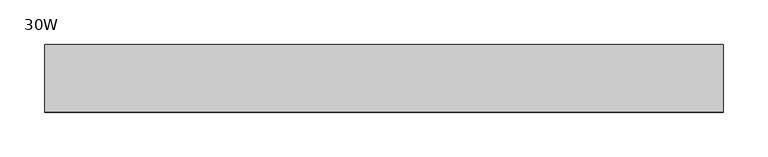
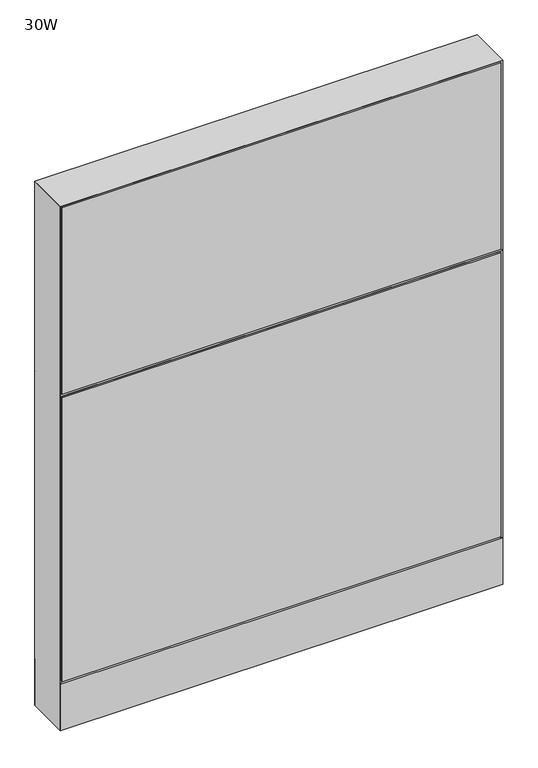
"""IFC4 building model written with IfcOpenShell, lengths in millimetres: furniture geometry, Steelcase - Montage - Frame - 38H - Enhanced Monolithic - Base Cavity : 30W."""

from ifc_helpers import new_model, si_unit, point, frame, frame_2d, origin, origin_with_axes, place, context, project, spatial, polyline, circle_curve, trimmed, segment, composite_curve, outline, extrude, faceted_brep, source, transform, mapped, element, save


def furniture_30w_2dfa0810(model_context):
    return source(origin(), model_context, "Body", "SolidModel", [
        faceted_brep([(-5.4e-06, 38.102627, 612.7750027), (6.3499917, 31.7526299, 619.1249997), (755.6500047, 31.7526299, 619.1249997), (762.0, 38.1026253, 612.7750044), (755.6500047, 31.7526299, 606.4250003), (6.3499917, 31.7526299, 606.4250003)], [[[0, 1, 2, 3]], [[3, 4, 5, 0]], [[1, 5, 4, 2]], [[0, 5, 1]], [[2, 4, 3]]]),
        extrude(outline(polyline([(3.175, 31.7500194), (3.175, 38.1000194), (758.825, 38.1000194), (758.825, 31.7500194), (3.175, 31.7500194)])), frame((0.0, 0.0, 92.075), z_axis=(0.0, 0.0, 1.0), x_axis=(1.0, 0.0, 0.0)), (0.0, 0.0, 1.0), 517.525),
        extrude(outline(polyline([(3.175, 31.7500194), (3.175, 38.1000194), (758.825, 38.1000194), (758.825, 31.7500194), (3.175, 31.7500194)])), frame((0.0, 0.0, 615.95), z_axis=(0.0, 0.0, 1.0), x_axis=(1.0, 0.0, 0.0)), (0.0, 0.0, 1.0), 339.725),
        faceted_brep([(0.0, -38.1026297, 612.775), (762.0, -38.1026297, 612.775), (755.6500047, -31.7526299, 619.1249997), (6.3499917, -31.7526299, 619.1249997), (6.3499917, -31.7526299, 606.4250003), (755.6500047, -31.7526299, 606.4250003)], [[[0, 1, 2, 3]], [[1, 0, 4, 5]], [[3, 2, 5, 4]], [[0, 3, 4]], [[2, 1, 5]]]),
        extrude(outline(polyline([(3.175, -31.7500194), (758.825, -31.7500194), (758.825, -38.1000194), (3.175, -38.1000194), (3.175, -31.7500194)])), frame((0.0, 0.0, 92.075), z_axis=(0.0, 0.0, 1.0), x_axis=(1.0, 0.0, 0.0)), (0.0, 0.0, 1.0), 517.525),
        extrude(outline(polyline([(3.175, -31.7500194), (758.825, -31.7500194), (758.825, -38.1000194), (3.175, -38.1000194), (3.175, -31.7500194)])), frame((0.0, 0.0, 615.95), z_axis=(0.0, 0.0, 1.0), x_axis=(1.0, 0.0, 0.0)), (0.0, 0.0, 1.0), 339.725),
        extrude(outline(polyline([(6.350003, -31.7499985), (755.649997, -31.7499985), (762.0, -38.1000015), (0.0, -38.1000015), (6.350003, -31.7499985)])), frame((0.0, 0.0, 4.064), z_axis=(0.0, 0.0, 1.0), x_axis=(1.0, 0.0, 0.0)), (0.0, 0.0, 1.0), 84.835997),
        extrude(outline(polyline([(6.3500002, 31.7500017), (0.0, 38.1000015), (762.0, 38.1000015), (755.6500002, 31.7500017), (6.3500002, 31.7500017)])), frame((0.0, 0.0, 4.064), z_axis=(0.0, 0.0, 1.0), x_axis=(1.0, 0.0, 0.0)), (0.0, 0.0, 1.0), 84.835997),
        faceted_brep([(755.6499516, -31.749953, 952.4999516), (6.3500484, -31.749953, 952.4999516), (6.3500484, 31.749953, 952.4999516), (755.6499516, 31.749953, 952.4999516), (0.0, -38.1000015, 958.85), (762.0, -38.1000015, 958.85), (762.0, 38.1000015, 958.85), (0.0, 38.1000015, 958.85)], [[[0, 1, 2, 3]], [[4, 5, 6, 7]], [[5, 4, 1, 0]], [[7, 6, 3, 2]], [[1, 4, 7, 2]], [[5, 0, 3, 6]]]),
        extrude(outline(composite_curve([segment(trimmed(circle_curve(frame_2d((44.45, 0.0)), 15.24), [point((29.21, 0.0))], [point((59.69, 0.0))], False, "CARTESIAN"), True, "CONTINUOUS"), segment(trimmed(circle_curve(frame_2d((44.45, 0.0)), 15.24), [point((59.69, 0.0))], [point((29.21, 0.0))], False, "CARTESIAN"), True, "CONTINUOUS")], self_intersect=False)), origin_with_axes(), (0.0, 0.0, 1.0), 4.064),
        extrude(outline(composite_curve([segment(trimmed(circle_curve(frame_2d((717.55, 0.0)), 15.24), [point((702.31, 0.0))], [point((732.79, 0.0))], False, "CARTESIAN"), True, "CONTINUOUS"), segment(trimmed(circle_curve(frame_2d((717.55, 0.0)), 15.24), [point((732.79, 0.0))], [point((702.31, 0.0))], False, "CARTESIAN"), True, "CONTINUOUS")], self_intersect=False)), origin_with_axes(), (0.0, 0.0, 1.0), 4.064),
        faceted_brep([(762.0, -38.1000106, 4.064), (762.0, 38.1000015, 4.064), (762.0, 38.1000015, 958.85), (762.0, -38.1000106, 958.8499637), (0.0, 38.1000015, 4.064), (0.0, -38.1000015, 4.064), (0.0, -38.1000015, 958.85), (0.0, 38.1000015, 958.85), (755.6499879, 31.7500017, 619.125), (6.35, 31.7500017, 619.125), (6.35, -31.7499985, 619.125), (755.6499879, -31.7499985, 619.125), (6.35, 31.7500017, 606.425), (755.6499879, 31.7500017, 606.425), (755.6499879, -31.7499985, 606.425), (6.35, -31.7499985, 606.425), (6.35, 31.7500015, 4.064), (6.35, -31.7500015, 4.064), (755.6499879, 31.7499894, 4.064), (755.6499879, -31.7499985, 4.064), (6.35, 31.7500015, 952.5), (6.35, -31.7500015, 952.5), (755.6499879, -31.7499985, 952.4999516), (755.6499879, 31.7499896, 952.4999516)], [[[0, 1, 2, 3]], [[4, 5, 6, 7]], [[8, 9, 10, 11]], [[12, 13, 14, 15]], [[16, 17, 5, 4]], [[18, 1, 0, 19]], [[17, 16, 12, 15]], [[10, 9, 20, 21]], [[18, 19, 14, 13]], [[8, 11, 22, 23]], [[16, 4, 7, 20, 9, 12]], [[5, 17, 15, 10, 21, 6]], [[19, 0, 3, 22, 11, 14]], [[1, 18, 13, 8, 23, 2]], [[7, 6, 21, 20]], [[3, 2, 23, 22]], [[13, 12, 9, 8]], [[11, 10, 15, 14]]]),
    ])


if __name__ == "__main__":
    model = new_model("IFC4")
    model_context = context("Model", 3, world=origin())
    ifc_project = project(units=[si_unit("LENGTHUNIT", "METRE", prefix="MILLI")], contexts=[model_context])
    site = spatial("IfcSite", under=ifc_project)
    building = spatial("IfcBuilding", under=site)
    placement = place(None, origin())
    furniture_30w_shape = furniture_30w_2dfa0810(model_context)
    element("IfcFurniture", 1, ObjectType="Steelcase - Montage - Frame - 38H - Enhanced Monolithic - Base Cavity : 30W", at=placement, inside=building, context=model_context, shape_type="MappedRepresentation", body=[
        mapped(furniture_30w_shape, transform((0.0, 0.0, 0.0), x_axis=(1.0, 0.0, 0.0), y_axis=(0.0, 1.0, 0.0), z_axis=(0.0, 0.0, 1.0))),
    ])
    save(model, "model.ifc")
